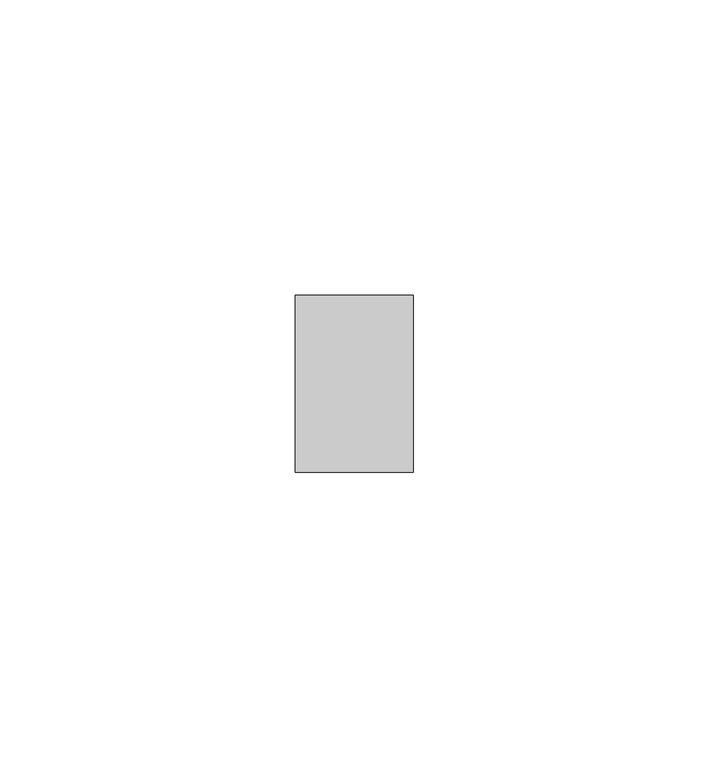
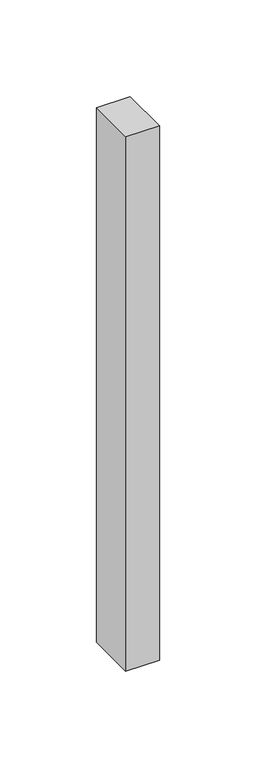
"""IFC4 building model written with IfcOpenShell, lengths in millimetres: member geometry, Прямоугольный импост : Квадрат 10 мм - Зазор между навесными плитами."""

from ifc_helpers import new_model, si_unit, frame, origin, place, context, project, spatial, polyline, outline, extrude, source, transform, mapped, element, save


def member_32c3b729(model_context):
    return source(origin(), model_context, "Body", "SweptSolid", [
        extrude(outline(polyline([(0.0, 15.0), (0.0, -15.0), (-20.0, -15.0), (-20.0, 15.0), (0.0, 15.0)])), frame((0.0, 0.0, -336.594082), z_axis=(0.0, 0.0, 1.0), x_axis=(1.0, 0.0, 0.0)), (0.0, 0.0, 1.0), 336.594082),
    ])


if __name__ == "__main__":
    model = new_model("IFC4")
    model_context = context("Model", 3, world=origin())
    ifc_project = project(units=[si_unit("LENGTHUNIT", "METRE", prefix="MILLI")], contexts=[model_context])
    site = spatial("IfcSite", under=ifc_project)
    building = spatial("IfcBuilding", under=site)
    placement = place(None, origin())
    member_shape = member_32c3b729(model_context)
    element("IfcMember", 1, ObjectType="Прямоугольный импост : Квадрат 10 мм - Зазор между навесными плитами", at=placement, inside=building, context=model_context, shape_type="MappedRepresentation", body=[
        mapped(member_shape, transform((0.0, 0.0, 0.0), x_axis=(1.0, 0.0, 0.0), y_axis=(0.0, 1.0, 0.0), z_axis=(0.0, 0.0, 1.0))),
    ])
    save(model, "model.ifc")
